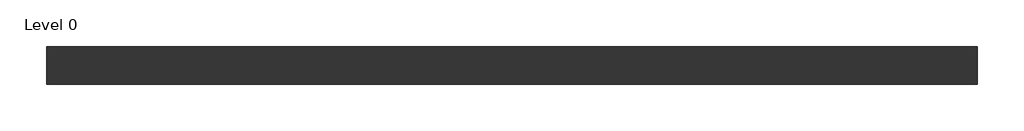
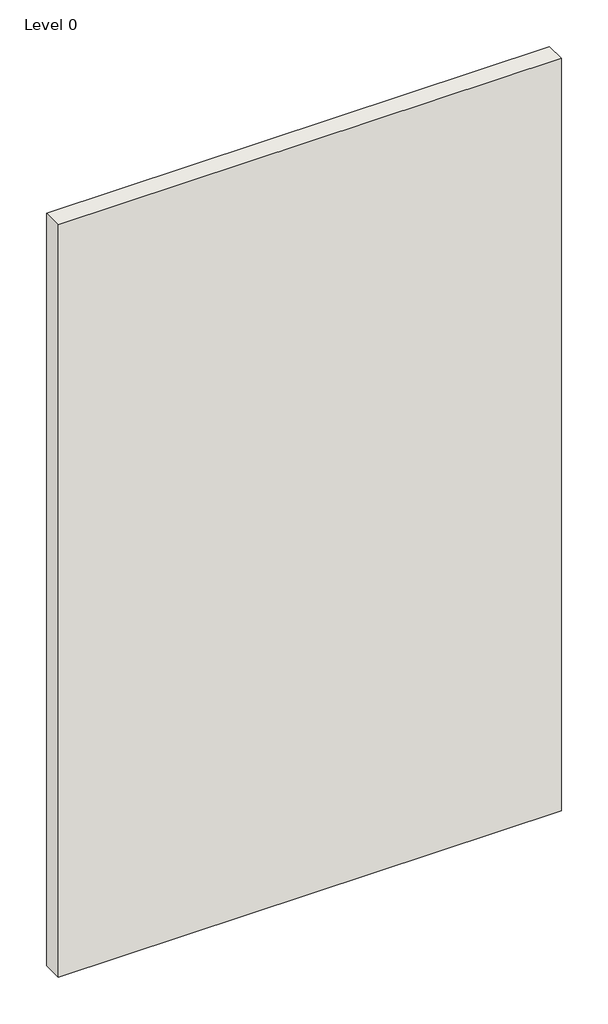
# One storey: 1 wall.
"""IFC4 building model written with IfcOpenShell, lengths in millimetres."""

from ifc_helpers import new_model, si_unit, origin, origin_with_axes, place, context, project, spatial, polyline, outline, extrude, element, save

model = new_model("IFC4")

# Units and contexts
model_context = context("Model", 3, world=origin())
ifc_project = project(units=[si_unit("LENGTHUNIT", "METRE", prefix="MILLI")], contexts=[model_context])

# Site, building, storey
site = spatial("IfcSite", under=ifc_project)
building = spatial("IfcBuilding", under=site)
storey = spatial("IfcBuildingStorey", under=building, Name="Level 0", Elevation=0.0)

# Wall
placement = place(None, origin())
element("IfcWall", 1, ObjectType="A026015 - GypWall Classic", at=placement, inside=storey, context=model_context, shape_type="SweptSolid", body=[
    extrude(outline(polyline([(1155.997948, 492.7669953), (-1944.002052, 492.7669953), (-1944.002052, 617.7669953), (1155.997948, 617.7669953), (1155.997948, 492.7669953)])), origin_with_axes(), (0.0, 0.0, 1.0), 4900.0),
])

save(model, "model.ifc")
